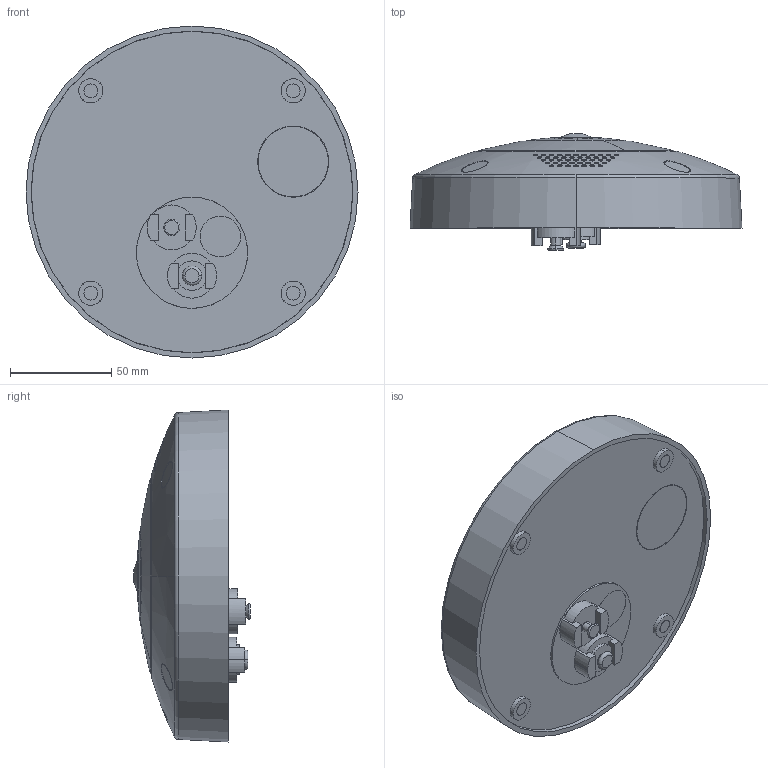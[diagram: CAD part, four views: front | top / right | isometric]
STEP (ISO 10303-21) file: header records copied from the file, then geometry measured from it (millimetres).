
FILE_DESCRIPTION (( 'STEP AP214' ), '1' );
FILE_NAME ('MOBOTIX c71.STEP', '2022-07-18T06:11:09', ( '' ), ( '' ), 'SwSTEP 2.0', 'SolidWorks 2021', '' );
FILE_SCHEMA (( 'AUTOMOTIVE_DESIGN' ));
Length unit declared in the file: millimetre
Products named in the file (1): MOBOTIX c71
Bounding box: 164 x 57.43 x 164 mm (x, y, z)
Volume: 702583.3 mm3; surface area: 59685.2 mm2
Topology: 1 solids, 1 shells, 380 faces, 898 edges, 594 vertices
Faces by surface type: bspline 105, sphere 80, plane 70, cylinder 60, cone 55, torus 10
Entity records: 29355 total; most frequent: CARTESIAN_POINT 20202, ORIENTED_EDGE 1796, DIRECTION 1341, EDGE_CURVE 898, VERTEX_POINT 594, AXIS2_PLACEMENT_3D 572, EDGE_LOOP 454, B_SPLINE_CURVE_WITH_KNOTS 405
